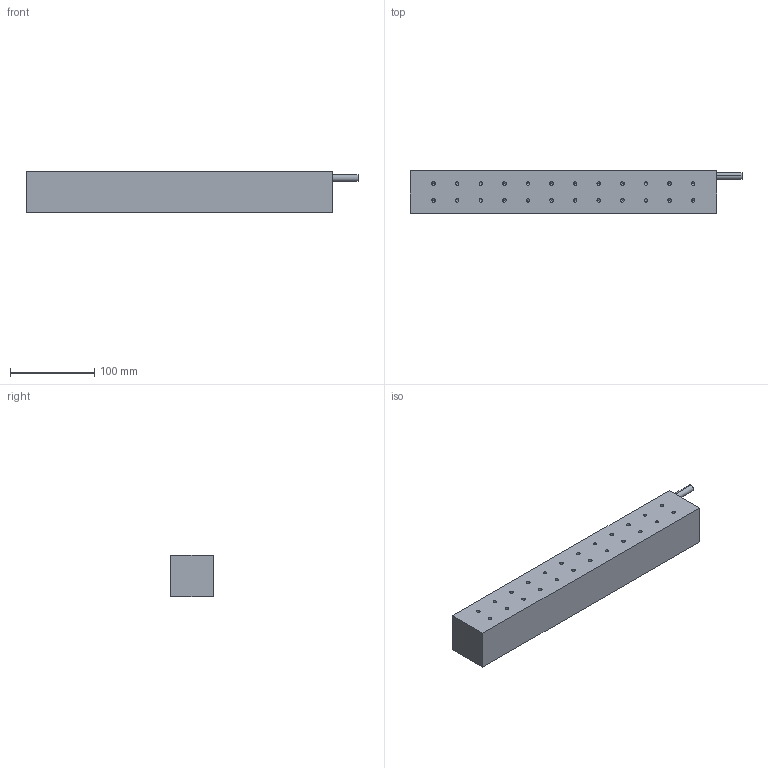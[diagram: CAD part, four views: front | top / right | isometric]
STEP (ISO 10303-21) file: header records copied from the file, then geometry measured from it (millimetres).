
FILE_DESCRIPTION (( 'STEP AP214' ), '1' );
FILE_NAME ('WKM30D雄赽.STEP', '2025-09-05T11:37:37', ( '' ), ( '' ), 'SwSTEP 2.0', 'SolidWorks 2016', '' );
FILE_SCHEMA (( 'AUTOMOTIVE_DESIGN' ));
Length unit declared in the file: millimetre
Products named in the file (1): WKM30D雄赽
Bounding box: 394 x 51 x 49.3 mm (x, y, z)
Volume: 914744.5 mm3; surface area: 80598.1 mm2
Topology: 1 solids, 1 shells, 105 faces, 258 edges, 132 vertices
Faces by surface type: cylinder 50, cone 48, plane 7
Entity records: 3294 total; most frequent: DIRECTION 522, CARTESIAN_POINT 448, ORIENTED_EDGE 420, EDGE_CURVE 210, AXIS2_PLACEMENT_3D 206, VERTEX_POINT 132, EDGE_LOOP 130, VECTOR 110
